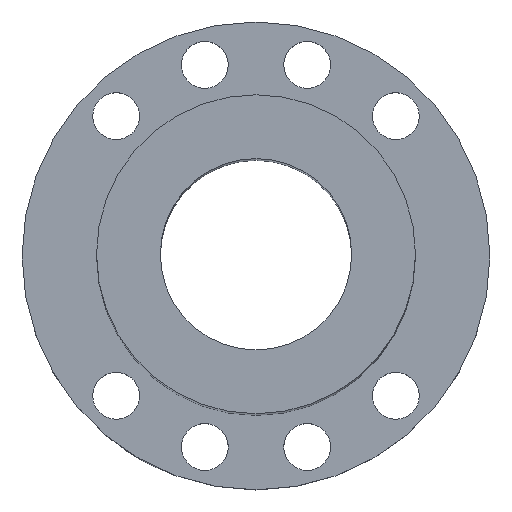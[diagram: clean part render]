
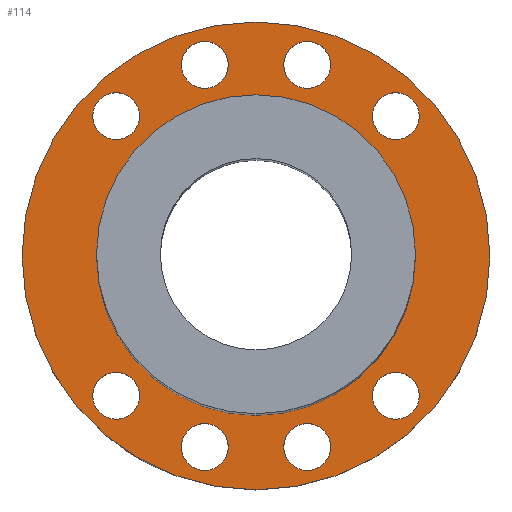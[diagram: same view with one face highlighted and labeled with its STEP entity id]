
A CAD part, top view. The second image highlights one B-rep face of the part: STEP entity #114.
In plain terms, the highlighted planar face has unit normal (0, 0, 1).
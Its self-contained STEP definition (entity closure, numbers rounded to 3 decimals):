
#99=PLANE('',#401);
#114=ADVANCED_FACE('',(#169,#170,#171,#172,#173,#174,#175,#176,#177,#178),
#99,.T.);
#169=FACE_BOUND('',#221,.T.);
#170=FACE_BOUND('',#222,.T.);
#171=FACE_BOUND('',#223,.T.);
#172=FACE_BOUND('',#224,.T.);
#173=FACE_BOUND('',#225,.T.);
#174=FACE_BOUND('',#226,.T.);
#175=FACE_BOUND('',#227,.T.);
#176=FACE_BOUND('',#228,.T.);
#177=FACE_BOUND('',#229,.T.);
#178=FACE_BOUND('',#230,.T.);
#221=EDGE_LOOP('',(#273));
#222=EDGE_LOOP('',(#274));
#223=EDGE_LOOP('',(#275));
#224=EDGE_LOOP('',(#276));
#225=EDGE_LOOP('',(#277));
#226=EDGE_LOOP('',(#278));
#227=EDGE_LOOP('',(#279));
#228=EDGE_LOOP('',(#280));
#229=EDGE_LOOP('',(#281));
#230=EDGE_LOOP('',(#282));
#273=ORIENTED_EDGE('',*,*,#316,.T.);
#274=ORIENTED_EDGE('',*,*,#318,.T.);
#275=ORIENTED_EDGE('',*,*,#337,.F.);
#276=ORIENTED_EDGE('',*,*,#336,.F.);
#277=ORIENTED_EDGE('',*,*,#335,.T.);
#278=ORIENTED_EDGE('',*,*,#334,.F.);
#279=ORIENTED_EDGE('',*,*,#333,.F.);
#280=ORIENTED_EDGE('',*,*,#332,.T.);
#281=ORIENTED_EDGE('',*,*,#331,.T.);
#282=ORIENTED_EDGE('',*,*,#338,.T.);
#290=VERTEX_POINT('',#495);
#292=VERTEX_POINT('',#557);
#305=VERTEX_POINT('',#644);
#306=VERTEX_POINT('',#647);
#307=VERTEX_POINT('',#650);
#308=VERTEX_POINT('',#653);
#309=VERTEX_POINT('',#656);
#310=VERTEX_POINT('',#659);
#311=VERTEX_POINT('',#662);
#312=VERTEX_POINT('',#665);
#316=EDGE_CURVE('',#290,#290,#342,.T.);
#318=EDGE_CURVE('',#292,#292,#343,.T.);
#331=EDGE_CURVE('',#305,#305,#355,.T.);
#332=EDGE_CURVE('',#306,#306,#356,.T.);
#333=EDGE_CURVE('',#307,#307,#357,.T.);
#334=EDGE_CURVE('',#308,#308,#358,.T.);
#335=EDGE_CURVE('',#309,#309,#359,.T.);
#336=EDGE_CURVE('',#310,#310,#360,.T.);
#337=EDGE_CURVE('',#311,#311,#361,.T.);
#338=EDGE_CURVE('',#312,#312,#362,.T.);
#342=CIRCLE('',#367,55.);
#343=CIRCLE('',#369,37.5);
#355=CIRCLE('',#385,5.5);
#356=CIRCLE('',#387,5.5);
#357=CIRCLE('',#389,5.5);
#358=CIRCLE('',#391,5.5);
#359=CIRCLE('',#393,5.5);
#360=CIRCLE('',#395,5.5);
#361=CIRCLE('',#397,5.5);
#362=CIRCLE('',#399,5.5);
#367=AXIS2_PLACEMENT_3D('',#494,#411,#412);
#369=AXIS2_PLACEMENT_3D('',#556,#415,#416);
#385=AXIS2_PLACEMENT_3D('',#643,#447,#448);
#387=AXIS2_PLACEMENT_3D('',#646,#451,#452);
#389=AXIS2_PLACEMENT_3D('',#649,#455,#456);
#391=AXIS2_PLACEMENT_3D('',#652,#459,#460);
#393=AXIS2_PLACEMENT_3D('',#655,#463,#464);
#395=AXIS2_PLACEMENT_3D('',#658,#467,#468);
#397=AXIS2_PLACEMENT_3D('',#661,#471,#472);
#399=AXIS2_PLACEMENT_3D('',#664,#475,#476);
#401=AXIS2_PLACEMENT_3D('',#667,#479,#480);
#411=DIRECTION('',(0.,0.,1.));
#412=DIRECTION('',(1.,0.,0.));
#415=DIRECTION('',(0.,0.,-1.));
#416=DIRECTION('',(1.,0.,0.));
#447=DIRECTION('',(0.,0.,-1.));
#448=DIRECTION('',(1.,0.,0.));
#451=DIRECTION('',(0.,0.,-1.));
#452=DIRECTION('',(1.,0.,0.));
#455=DIRECTION('',(0.,0.,1.));
#456=DIRECTION('',(1.,0.,0.));
#459=DIRECTION('',(0.,0.,1.));
#460=DIRECTION('',(-1.,0.,0.));
#463=DIRECTION('',(0.,0.,-1.));
#464=DIRECTION('',(-1.,0.,0.));
#467=DIRECTION('',(0.,0.,1.));
#468=DIRECTION('',(1.,0.,0.));
#471=DIRECTION('',(0.,0.,1.));
#472=DIRECTION('',(-1.,0.,0.));
#475=DIRECTION('',(0.,0.,-1.));
#476=DIRECTION('',(-1.,0.,0.));
#479=DIRECTION('',(0.,0.,1.));
#480=DIRECTION('',(1.,0.,0.));
#494=CARTESIAN_POINT('',(0.,0.,16.));
#495=CARTESIAN_POINT('',(55.,0.,16.));
#556=CARTESIAN_POINT('',(0.,0.,16.));
#557=CARTESIAN_POINT('',(37.5,0.,16.));
#643=CARTESIAN_POINT('',(-12.035,-44.916,16.));
#644=CARTESIAN_POINT('',(-6.535,-44.916,16.));
#646=CARTESIAN_POINT('',(-32.88,-32.88,16.));
#647=CARTESIAN_POINT('',(-27.38,-32.88,16.));
#649=CARTESIAN_POINT('',(-12.035,44.916,16.));
#650=CARTESIAN_POINT('',(-6.535,44.916,16.));
#652=CARTESIAN_POINT('',(12.035,-44.916,16.));
#653=CARTESIAN_POINT('',(6.535,-44.916,16.));
#655=CARTESIAN_POINT('',(32.88,32.88,16.));
#656=CARTESIAN_POINT('',(27.38,32.88,16.));
#658=CARTESIAN_POINT('',(-32.88,32.88,16.));
#659=CARTESIAN_POINT('',(-27.38,32.88,16.));
#661=CARTESIAN_POINT('',(32.88,-32.88,16.));
#662=CARTESIAN_POINT('',(27.38,-32.88,16.));
#664=CARTESIAN_POINT('',(12.035,44.916,16.));
#665=CARTESIAN_POINT('',(6.535,44.916,16.));
#667=CARTESIAN_POINT('',(10.96,-10.96,16.));
